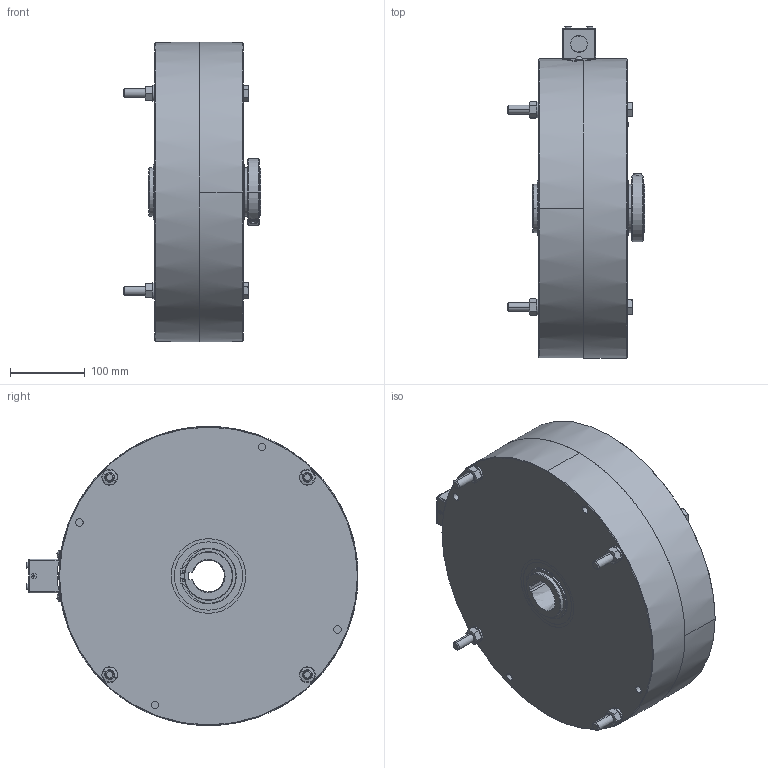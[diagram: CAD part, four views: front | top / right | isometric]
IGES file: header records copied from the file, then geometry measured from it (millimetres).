
Global section: file name: No Iges File Name specified; native system: Autodesk Inventor 2010; preprocessor: AutoDesk Inventor Iges Exporter R2010; author: lzuniga; date: 20101202.125636; units: inch
Bounding box: 183.37 x 444.12 x 400.05 mm (x, y, z)
Volume: 14771303.7 mm3; surface area: 543091.9 mm2
Topology: 24 solids, 25 shells, 514 faces, 1242 edges, 793 vertices
Faces by surface type: plane 230, bspline 126, cylinder 73, revolution 44, cone 32, sphere 5, torus 4
